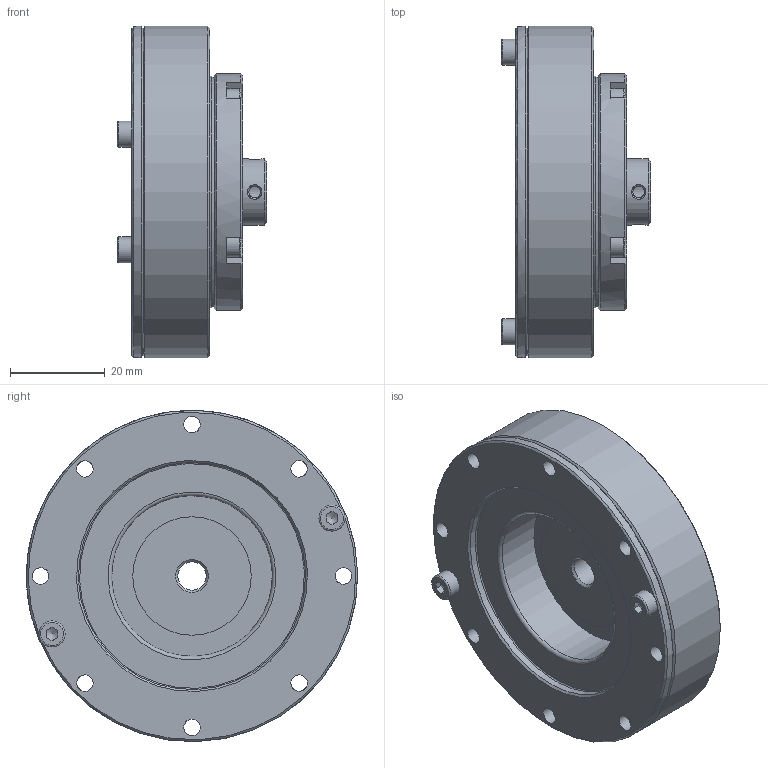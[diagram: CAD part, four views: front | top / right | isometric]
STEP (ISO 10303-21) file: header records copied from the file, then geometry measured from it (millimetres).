
FILE_DESCRIPTION(/* description */ (''),/* implementation_level */ '2;1');
FILE_NAME(/* name */ '\\Hiwin.tw\dfs\TB00F\研發課二組\\X2\6A5F5BC67D1A\X0\\1.設計\01-DT\DT-圖面\2.\X2\7D4454085716\X0\\模型\DGH-PO\DGH-14-PO\DGH-14-XX-PO_v2.stp',/* time_stamp */ '2024-09-27T16:37:18+08:00',/* author */ ('chiayu.chen'),/* organization */ (''),/* preprocessor_version */ 'ST-DEVELOPER v15.2',/* originating_system */ 'Autodesk Inventor 2014',/* authorisation */ '');
FILE_SCHEMA (('AUTOMOTIVE_DESIGN { 1 0 10303 214 3 1 1 }'));
Length unit declared in the file: centimetre
Products named in the file (1): AK000MG2
Bounding box: 31.5 x 70 x 70 mm (x, y, z)
Volume: 61785.9 mm3; surface area: 19570.8 mm2
Topology: 1 solids, 13 shells, 476 faces, 1173 edges, 739 vertices
Faces by surface type: cylinder 173, plane 153, cone 64, torus 61, sphere 23, bspline 2
Full cylindrical faces by diameter (mm): 1.7 x2, 2.459 x16, 3 x6, 3.5 x22, 5.5 x6, 6 x1, 13.4 x1, 14 x2, 14.1 x1, 20 x1, 22 x1, 25.02 x1, 26.67 x1, 32.37 x1, 33.89 x1, 33.94 x1, 48 x1, 49 x1, 50 x1, 58 x1, 70 x2
Entity records: 13204 total; most frequent: CARTESIAN_POINT 2446, DIRECTION 2378, ORIENTED_EDGE 1844, AXIS2_PLACEMENT_3D 1077, EDGE_CURVE 876, EDGE_LOOP 698, VERTEX_POINT 612, CIRCLE 602
